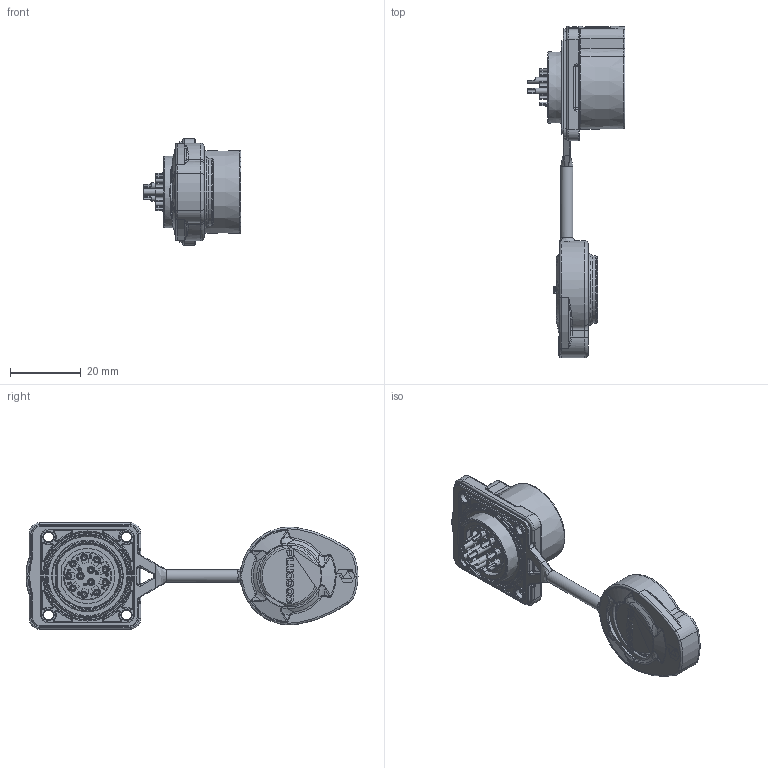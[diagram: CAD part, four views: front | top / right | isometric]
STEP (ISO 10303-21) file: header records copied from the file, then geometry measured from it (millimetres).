
FILE_DESCRIPTION (( 'STEP AP203' ), '1' );
FILE_NAME ('PLG20 12郋侐謂脣釱.STEP', '2025-03-20T00:36:02', ( '' ), ( '' ), 'SwSTEP 2.0', 'SolidWorks 2024', '' );
FILE_SCHEMA (( 'CONFIG_CONTROL_DESIGN' ));
Length unit declared in the file: millimetre
Products named in the file (1): PLG20 12芯四孔插座
Bounding box: 27.6 x 93.64 x 30 mm (x, y, z)
Volume: 12532.5 mm3; surface area: 10606.5 mm2
Topology: 1 solids, 9 shells, 1765 faces, 4388 edges, 2763 vertices
Faces by surface type: plane 598, cylinder 432, bspline 425, torus 220, cone 78, sphere 12
Full cylindrical faces by diameter (mm): 1.061 x1, 1.1 x12, 1.2 x12, 1.65 x12, 1.75 x12, 2.088 x1, 2.1 x3, 2.8 x4, 3.3 x4, 3.5 x1, 6 x4, 13.5 x1, 16.5 x1, 19.1 x1, 19.5 x3, 22.3 x1, 23.5 x1, 25 x1
Entity records: 68522 total; most frequent: CARTESIAN_POINT 30406, ORIENTED_EDGE 8352, DIRECTION 6870, EDGE_CURVE 4176, VERTEX_POINT 2706, AXIS2_PLACEMENT_3D 2546, EDGE_LOOP 2058, FACE_OUTER_BOUND 1863
